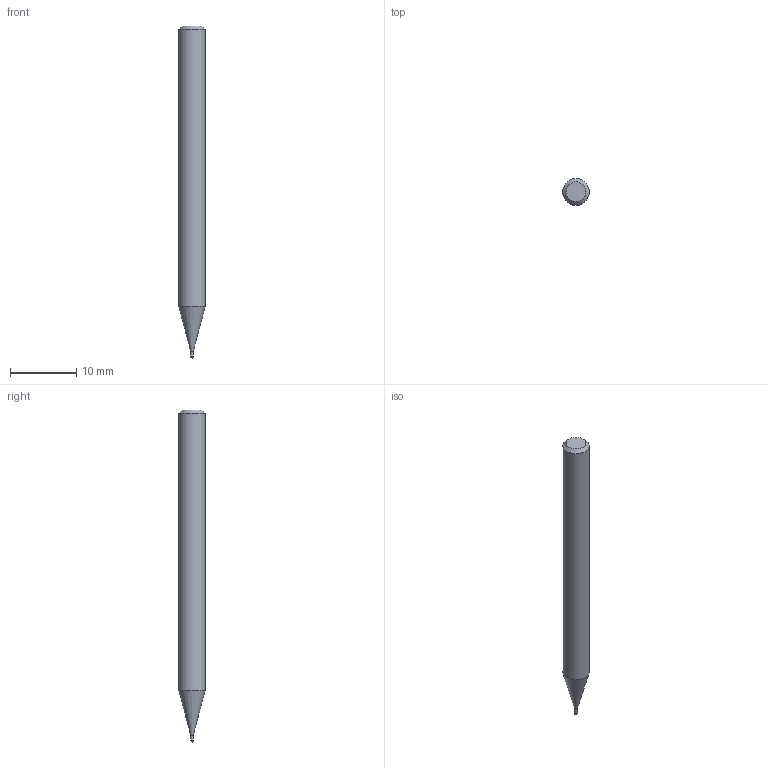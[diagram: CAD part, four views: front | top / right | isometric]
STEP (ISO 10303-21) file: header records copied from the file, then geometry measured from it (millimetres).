
FILE_DESCRIPTION((''),'2;1');
FILE_NAME('C:\Users\nsx150\AppData\Local\Temp\Mastercam 2021\LJSIDMOTM8\TEMP.step','2021-08-03T14:22:53',(''),(''),'STEP Write','Mastercam 2021 ... CNC Software, Inc.','');
FILE_SCHEMA(('AUTOMOTIVE_DESIGN'));
Length unit declared in the file: millimetre
Products named in the file (1): None
Bounding box: 4 x 4 x 50 mm (x, y, z)
Volume: 560.5 mm3; surface area: 588.8 mm2
Topology: 2 solids, 2 shells, 9 faces, 14 edges, 8 vertices
Faces by surface type: plane 3, cylinder 3, cone 2, sphere 1
Full cylindrical faces by diameter (mm): 0.37 x1, 0.4 x1, 4 x1
Entity records: 211 total; most frequent: DIRECTION 36, CARTESIAN_POINT 25, AXIS2_PLACEMENT_3D 18, ORIENTED_EDGE 14, EDGE_LOOP 14, STYLED_ITEM 12, ADVANCED_FACE 9, FACE_BOUND 8
